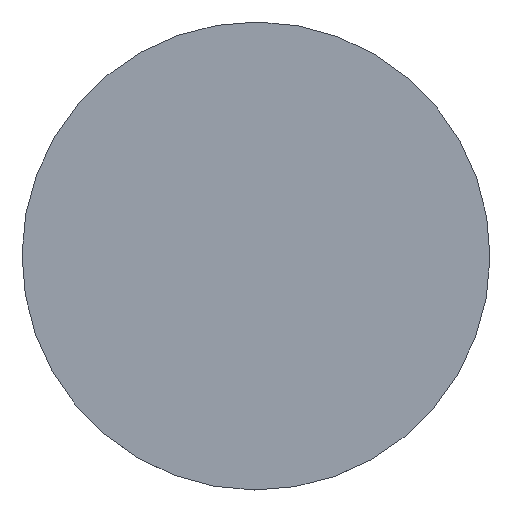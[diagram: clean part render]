
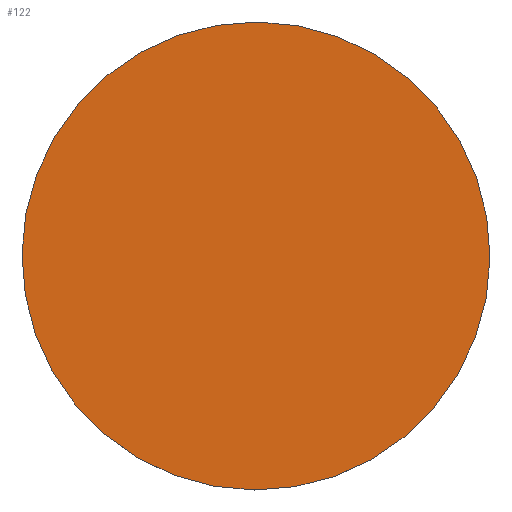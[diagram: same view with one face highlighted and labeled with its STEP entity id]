
A CAD part, top view. The second image highlights one B-rep face of the part: STEP entity #122.
In plain terms, the highlighted planar face has unit normal (0, 0, 1).
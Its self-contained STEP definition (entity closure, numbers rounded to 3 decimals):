
#122=ADVANCED_FACE('',(#292),#2576,.T.);
#292=FACE_OUTER_BOUND('',#480,.T.);
#480=EDGE_LOOP('',(#824,#825));
#824=ORIENTED_EDGE('',*,*,#1492,.F.);
#825=ORIENTED_EDGE('',*,*,#1488,.F.);
#1488=EDGE_CURVE('',#2428,#2429,#1810,.T.);
#1492=EDGE_CURVE('',#2429,#2428,#1812,.T.);
#1810=TRIMMED_CURVE($,#2038,(#4383),(#4384),.T.,.CARTESIAN.);
#1812=TRIMMED_CURVE($,#2040,(#4393),(#4394),.T.,.CARTESIAN.);
#2038=CIRCLE('',#2940,450.);
#2040=CIRCLE('',#2942,450.);
#2428=VERTEX_POINT('',#4258);
#2429=VERTEX_POINT('',#4259);
#2576=PLANE('',#2890);
#2890=AXIS2_PLACEMENT_3D('',#4184,#3293,$);
#2940=AXIS2_PLACEMENT_3D($,#4382,#3367,#3368);
#2942=AXIS2_PLACEMENT_3D($,#4392,#3371,#3372);
#3293=DIRECTION('',(0.,0.,1.));
#3367=DIRECTION('',(0.,0.,-1.));
#3368=DIRECTION('',(0.008,1.,0.));
#3371=DIRECTION('',(0.,0.,-1.));
#3372=DIRECTION('',(-0.008,-1.,0.));
#4184=CARTESIAN_POINT('',(-544.241,-544.241,366.8));
#4258=CARTESIAN_POINT('',(3.448,449.987,366.8));
#4259=CARTESIAN_POINT('',(-3.448,-449.987,366.8));
#4382=CARTESIAN_POINT('',(0.,0.,366.8));
#4383=CARTESIAN_POINT('',(3.448,449.987,366.8));
#4384=CARTESIAN_POINT('',(-3.448,-449.987,366.8));
#4392=CARTESIAN_POINT('',(0.,0.,366.8));
#4393=CARTESIAN_POINT('',(-3.448,-449.987,366.8));
#4394=CARTESIAN_POINT('',(3.448,449.987,366.8));
